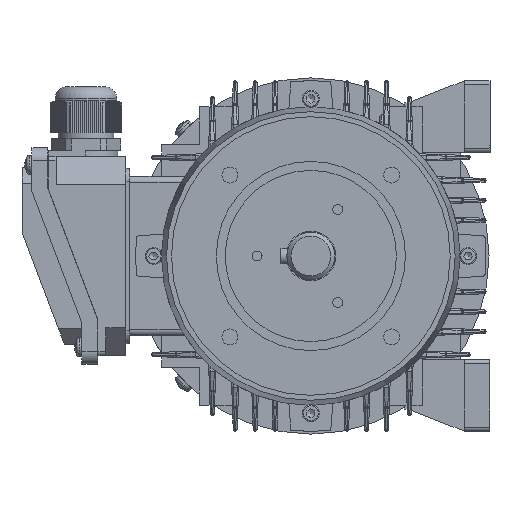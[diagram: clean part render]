
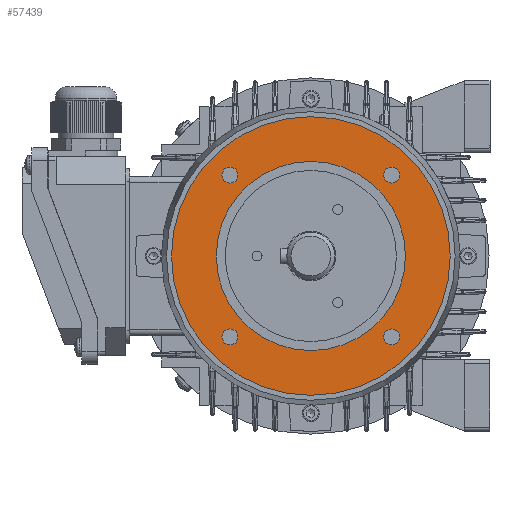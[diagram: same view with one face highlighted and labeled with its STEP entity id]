
A CAD part, left-side view. The second image highlights one B-rep face of the part: STEP entity #57439.
In plain terms, the highlighted planar face has unit normal (-1, 0, 0).
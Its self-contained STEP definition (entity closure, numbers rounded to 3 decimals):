
#2802=FACE_BOUND('',#12046,.T.);
#2803=FACE_BOUND('',#12047,.T.);
#2804=FACE_BOUND('',#12048,.T.);
#2805=FACE_BOUND('',#12049,.T.);
#2806=FACE_BOUND('',#12050,.T.);
#5518=CIRCLE('',#62157,70.);
#5550=CIRCLE('',#62224,4.);
#5552=CIRCLE('',#62228,4.);
#5554=CIRCLE('',#62232,4.);
#5556=CIRCLE('',#62236,4.);
#5557=CIRCLE('',#62240,47.5);
#8641=FACE_OUTER_BOUND('',#12045,.T.);
#12045=EDGE_LOOP('',(#49616));
#12046=EDGE_LOOP('',(#49617));
#12047=EDGE_LOOP('',(#49618));
#12048=EDGE_LOOP('',(#49619));
#12049=EDGE_LOOP('',(#49620));
#12050=EDGE_LOOP('',(#49621));
#25752=VERTEX_POINT('',#108532);
#25816=VERTEX_POINT('',#108755);
#25818=VERTEX_POINT('',#108761);
#25820=VERTEX_POINT('',#108767);
#25822=VERTEX_POINT('',#108773);
#25823=VERTEX_POINT('',#108778);
#33690=EDGE_CURVE('',#25752,#25752,#5518,.T.);
#33782=EDGE_CURVE('',#25816,#25816,#5550,.T.);
#33784=EDGE_CURVE('',#25818,#25818,#5552,.T.);
#33786=EDGE_CURVE('',#25820,#25820,#5554,.T.);
#33788=EDGE_CURVE('',#25822,#25822,#5556,.T.);
#33789=EDGE_CURVE('',#25823,#25823,#5557,.T.);
#49616=ORIENTED_EDGE('',*,*,#33690,.T.);
#49617=ORIENTED_EDGE('',*,*,#33782,.T.);
#49618=ORIENTED_EDGE('',*,*,#33784,.T.);
#49619=ORIENTED_EDGE('',*,*,#33786,.T.);
#49620=ORIENTED_EDGE('',*,*,#33788,.T.);
#49621=ORIENTED_EDGE('',*,*,#33789,.F.);
#51505=PLANE('',#62239);
#57439=ADVANCED_FACE('',(#8641,#2802,#2803,#2804,#2805,#2806),#51505,.T.);
#62157=AXIS2_PLACEMENT_3D('',#108533,#75798,#75799);
#62224=AXIS2_PLACEMENT_3D('',#108756,#75976,#75977);
#62228=AXIS2_PLACEMENT_3D('',#108762,#75984,#75985);
#62232=AXIS2_PLACEMENT_3D('',#108768,#75992,#75993);
#62236=AXIS2_PLACEMENT_3D('',#108774,#76000,#76001);
#62239=AXIS2_PLACEMENT_3D('',#108777,#76006,#76007);
#62240=AXIS2_PLACEMENT_3D('',#108779,#76008,#76009);
#75798=DIRECTION('center_axis',(-1.,0.,0.));
#75799=DIRECTION('ref_axis',(0.,1.,0.));
#75976=DIRECTION('center_axis',(1.,0.,0.));
#75977=DIRECTION('ref_axis',(0.,-1.,0.));
#75984=DIRECTION('center_axis',(1.,0.,0.));
#75985=DIRECTION('ref_axis',(0.,0.,1.));
#75992=DIRECTION('center_axis',(1.,0.,0.));
#75993=DIRECTION('ref_axis',(0.,1.,0.));
#76000=DIRECTION('center_axis',(1.,0.,0.));
#76001=DIRECTION('ref_axis',(0.,0.,-1.));
#76006=DIRECTION('center_axis',(-1.,0.,0.));
#76007=DIRECTION('ref_axis',(0.,0.,1.));
#76008=DIRECTION('center_axis',(-1.,0.,0.));
#76009=DIRECTION('ref_axis',(0.,1.,0.));
#108532=CARTESIAN_POINT('',(-110.967,28.867,0.));
#108533=CARTESIAN_POINT('Origin',(-110.967,-41.133,0.));
#108755=CARTESIAN_POINT('',(-110.967,3.525,-40.659));
#108756=CARTESIAN_POINT('Origin',(-110.967,-0.475,-40.659));
#108761=CARTESIAN_POINT('',(-110.967,-81.792,-44.659));
#108762=CARTESIAN_POINT('Origin',(-110.967,-81.792,-40.659));
#108767=CARTESIAN_POINT('',(-110.967,-85.792,40.659));
#108768=CARTESIAN_POINT('Origin',(-110.967,-81.792,40.659));
#108773=CARTESIAN_POINT('',(-110.967,-0.475,44.659));
#108774=CARTESIAN_POINT('Origin',(-110.967,-0.475,
40.659));
#108777=CARTESIAN_POINT('Origin',(-110.967,18.867,0.));
#108778=CARTESIAN_POINT('',(-110.967,6.367,0.));
#108779=CARTESIAN_POINT('Origin',(-110.967,-41.133,0.));
